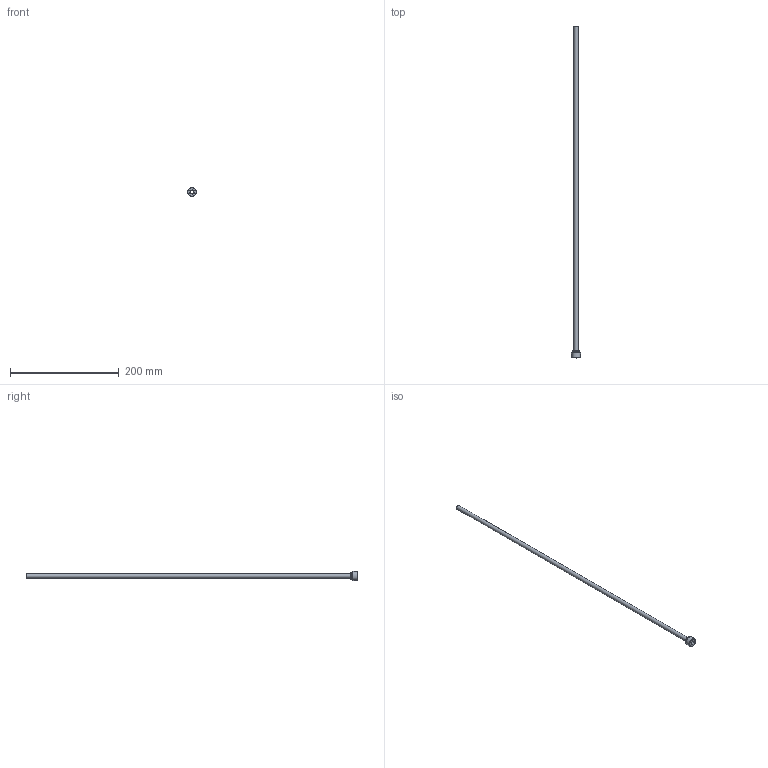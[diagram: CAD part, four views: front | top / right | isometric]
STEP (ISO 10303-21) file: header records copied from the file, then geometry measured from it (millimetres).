
FILE_DESCRIPTION(/* description */ (''),/* implementation_level */ '2;1');
FILE_NAME(/* name */ 'C:/Users/drich/Desktop/PT38-312-24 v1.step',/* time_stamp */ '2019-12-27T15:54:20-06:00',/* author */ (''),/* organization */ (''),/* preprocessor_version */ 'ST-DEVELOPER v18',/* originating_system */ 'Autodesk Translation Framework v8.12.0.6',/* authorisation */ '');
FILE_SCHEMA (('AUTOMOTIVE_DESIGN { 1 0 10303 214 3 1 1 }'));
Length unit declared in the file: inch
Products named in the file (1): PT38-312-24
Bounding box: 16.54 x 609.6 x 16.54 mm (x, y, z)
Volume: 6183.7 mm3; surface area: 29822.1 mm2
Topology: 1 solids, 1 shells, 19 faces, 48 edges, 34 vertices
Faces by surface type: plane 11, cylinder 4, torus 2, cone 2
Full cylindrical faces by diameter (mm): 7.315 x1, 7.925 x1, 11.938 x1, 16.537 x1
Entity records: 633 total; most frequent: DIRECTION 112, CARTESIAN_POINT 102, ORIENTED_EDGE 96, EDGE_CURVE 48, AXIS2_PLACEMENT_3D 44, VERTEX_POINT 34, CIRCLE 24, EDGE_LOOP 24
